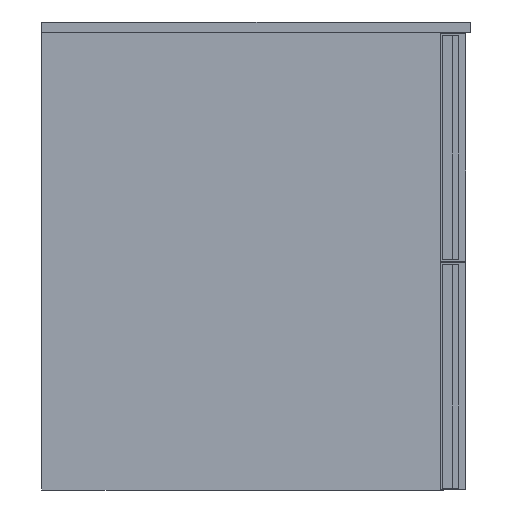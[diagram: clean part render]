
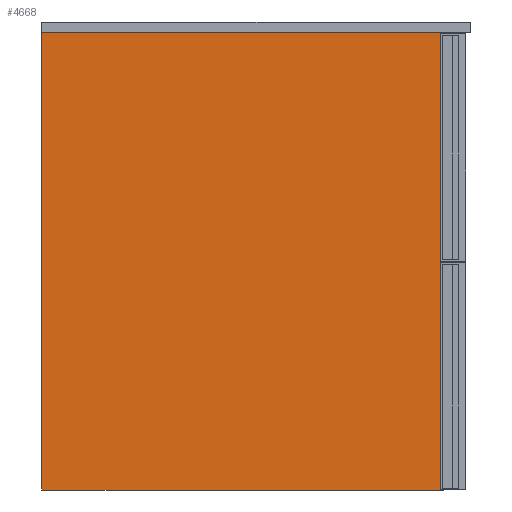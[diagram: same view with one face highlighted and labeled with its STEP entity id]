
A CAD part, left-side view. The second image highlights one B-rep face of the part: STEP entity #4668.
In plain terms, the highlighted planar face has unit normal (-1, 0, 0).
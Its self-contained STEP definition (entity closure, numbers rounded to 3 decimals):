
#353 = CARTESIAN_POINT ( 'NONE',  ( 4768.569, -6638.259, 540. ) ) ;
#483 = VERTEX_POINT ( 'NONE', #12404 ) ;
#1674 = DIRECTION ( 'NONE',  ( 0., 0., -1. ) ) ;
#1817 = EDGE_LOOP ( 'NONE', ( #14736, #4561, #10116, #2444 ) ) ;
#2444 = ORIENTED_EDGE ( 'NONE', *, *, #7515, .F. ) ;
#2982 = EDGE_CURVE ( 'NONE', #483, #12171, #7608, .T. ) ;
#4445 = CARTESIAN_POINT ( 'NONE',  ( 4768.569, -6403.259, 270. ) ) ;
#4561 = ORIENTED_EDGE ( 'NONE', *, *, #2982, .F. ) ;
#4611 = CARTESIAN_POINT ( 'NONE',  ( 4768.569, -6168.259, 540. ) ) ;
#4668 = ADVANCED_FACE ( 'NONE', ( #11601 ), #14955, .F. ) ;
#4991 = VECTOR ( 'NONE', #11509, 1000. ) ;
#5478 = VECTOR ( 'NONE', #7696, 1000. ) ;
#5594 = CARTESIAN_POINT ( 'NONE',  ( 4768.569, -6168.259, 270. ) ) ;
#6511 = DIRECTION ( 'NONE',  ( 0., -1., 0. ) ) ;
#7395 = VERTEX_POINT ( 'NONE', #353 ) ;
#7515 = EDGE_CURVE ( 'NONE', #7395, #10204, #14630, .T. ) ;
#7524 = CARTESIAN_POINT ( 'NONE',  ( 4768.569, -6638.259, 270. ) ) ;
#7608 = LINE ( 'NONE', #5594, #4991 ) ;
#7696 = DIRECTION ( 'NONE',  ( 0., 1., 0. ) ) ;
#7856 = LINE ( 'NONE', #10058, #5478 ) ;
#8225 = EDGE_CURVE ( 'NONE', #10204, #483, #7856, .T. ) ;
#8644 = EDGE_CURVE ( 'NONE', #12171, #7395, #13480, .T. ) ;
#8726 = CARTESIAN_POINT ( 'NONE',  ( 4768.569, -6403.259, 540. ) ) ;
#10058 = CARTESIAN_POINT ( 'NONE',  ( 4768.569, -6403.259, 0. ) ) ;
#10116 = ORIENTED_EDGE ( 'NONE', *, *, #8225, .F. ) ;
#10204 = VERTEX_POINT ( 'NONE', #10324 ) ;
#10324 = CARTESIAN_POINT ( 'NONE',  ( 4768.569, -6638.259, 0. ) ) ;
#10366 = DIRECTION ( 'NONE',  ( 0., 0., -1. ) ) ;
#10792 = DIRECTION ( 'NONE',  ( 1., 0., 0. ) ) ;
#11391 = VECTOR ( 'NONE', #1674, 1000. ) ;
#11509 = DIRECTION ( 'NONE',  ( 0., 0., 1. ) ) ;
#11601 = FACE_OUTER_BOUND ( 'NONE', #1817, .T. ) ;
#12171 = VERTEX_POINT ( 'NONE', #4611 ) ;
#12404 = CARTESIAN_POINT ( 'NONE',  ( 4768.569, -6168.259, 0. ) ) ;
#12942 = AXIS2_PLACEMENT_3D ( 'NONE', #4445, #10792, #10366 ) ;
#13480 = LINE ( 'NONE', #8726, #13886 ) ;
#13886 = VECTOR ( 'NONE', #6511, 1000. ) ;
#14630 = LINE ( 'NONE', #7524, #11391 ) ;
#14736 = ORIENTED_EDGE ( 'NONE', *, *, #8644, .F. ) ;
#14955 = PLANE ( 'NONE',  #12942 ) ;
